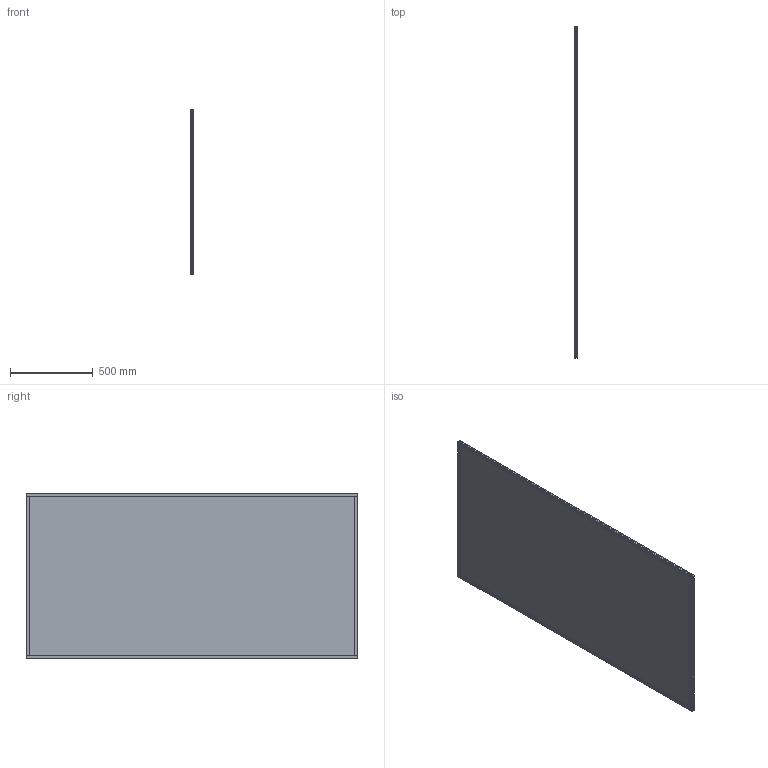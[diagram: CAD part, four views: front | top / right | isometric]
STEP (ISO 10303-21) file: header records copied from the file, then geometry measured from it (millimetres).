
FILE_DESCRIPTION(/* description */ (''),/* implementation_level */ '2;1');
FILE_NAME(/* name */ 'D:\1\SHOWER GLASS GK-24.P4.08\SHOWER GLASS GK-24.P4 (3D).stp',/* time_stamp */ '2025-11-10T17:28:51+03:00',/* author */ ('User'),/* organization */ (''),/* preprocessor_version */ 'ST-DEVELOPER v15.2',/* originating_system */ 'Autodesk Inventor 2014',/* authorisation */ '');
FILE_SCHEMA (('CONFIG_CONTROL_DESIGN'));
Length unit declared in the file: millimetre
Products named in the file (7): PR-24.008; UP-24.810H (пластик); Стекло 8 мм (4
); PR-24.008_2; UP-24.810H (пластик) 2; PL-24.008; SHOWER GLASS GK-24.P4.08
Bounding box: 15.7 x 2001.5 x 1000 mm (x, y, z)
Volume: 16271152.7 mm3; surface area: 5031766.5 mm2
Topology: 15 solids, 15 shells, 1366 faces, 3892 edges, 2588 vertices
Faces by surface type: plane 1174, bspline 124, cylinder 56, sphere 4, torus 4, cone 4
Entity records: 18555 total; most frequent: CARTESIAN_POINT 4202, ORIENTED_EDGE 3160, DIRECTION 2542, EDGE_CURVE 1580, LINE 1406, VECTOR 1406, VERTEX_POINT 1050, EDGE_LOOP 574
